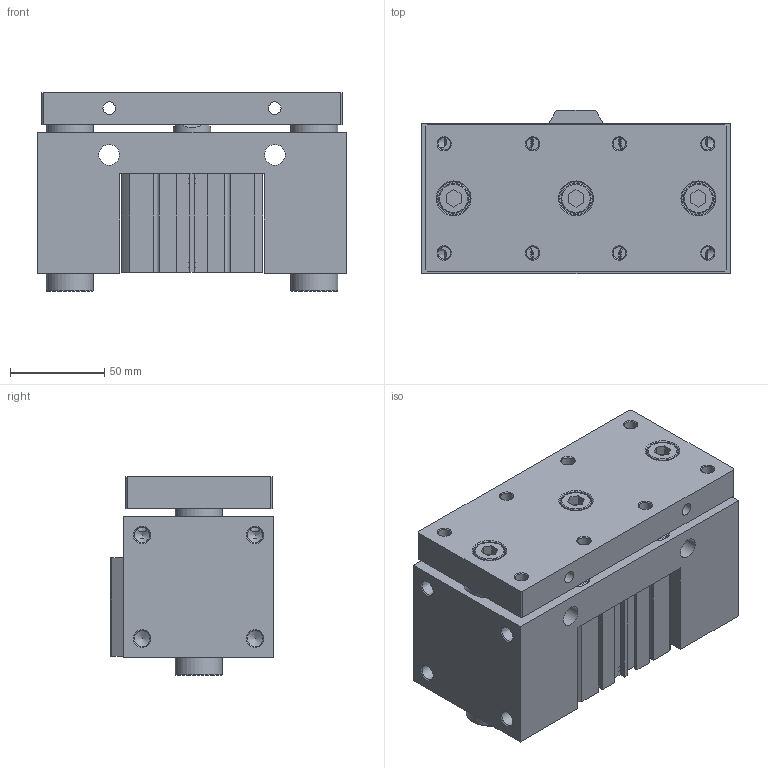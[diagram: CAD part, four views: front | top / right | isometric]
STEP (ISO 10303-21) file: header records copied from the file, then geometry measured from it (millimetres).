
FILE_DESCRIPTION((''),'2;1');
FILE_NAME('I:\3D電子目錄\氣缸\JCB\JCB\JCB63-S\JCB63x10-S.stp','2007-09-01T15:29:09',('Administrator'),(''),'Autodesk Inventor 11','Autodesk Inventor 11','');
FILE_SCHEMA(('AUTOMOTIVE_DESIGN { 1 0 10303 214 1 1 1 1 }'));
Length unit declared in the file: millimetre
Products named in the file (1): JCB63
Bounding box: 164 x 87 x 105.5 mm (x, y, z)
Volume: 1092524.8 mm3; surface area: 181952.7 mm2
Topology: 3 solids, 5 shells, 343 faces, 829 edges, 538 vertices
Faces by surface type: plane 186, cylinder 62, cone 47, bspline 40, torus 8
Full cylindrical faces by diameter (mm): 3 x2, 6.8 x4, 8.376 x4, 11 x8, 13 x4, 14 x4, 16 x3, 17.5 x3, 20 x1, 21 x1, 25 x2, 28 x2, 40 x1, 47 x1, 65 x4, 68 x2
Entity records: 10008 total; most frequent: CARTESIAN_POINT 2670, DIRECTION 1474, ORIENTED_EDGE 1320, EDGE_CURVE 660, EDGE_LOOP 554, AXIS2_PLACEMENT_3D 532, VERTEX_POINT 498, VECTOR 410
